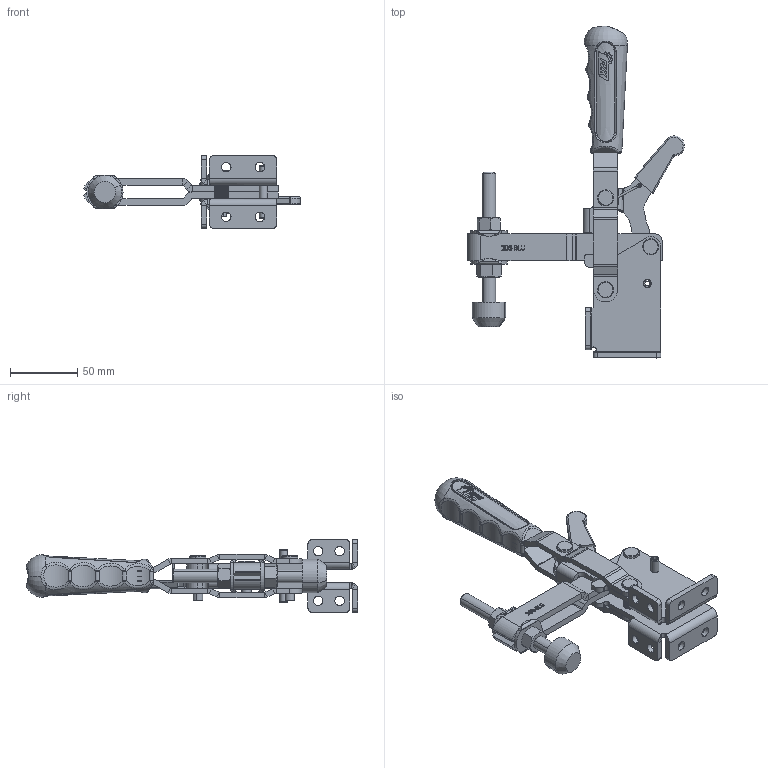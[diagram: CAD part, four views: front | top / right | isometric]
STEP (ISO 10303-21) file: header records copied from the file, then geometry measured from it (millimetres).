
FILE_DESCRIPTION (( 'STEP AP214' ), '1' );
FILE_NAME ('203_YLU-K.STEP', '2024-09-09T16:32:12', ( '' ), ( '' ), 'SwSTEP 2.0', 'SolidWorks 2023', '' );
FILE_SCHEMA (( 'AUTOMOTIVE_DESIGN' ));
Length unit declared in the file: millimetre
Products named in the file (20): M10 PABUÇ; TTMK_03_00; FZK_203_YL_02_00; FZK_203_B_07_00; FZK_203_YL_01_00; FZK_203_BU_01_00; FZK_203_B_03_00; M10x100 A.K.B; Ø6x40 YARIKLI PİM; FZK_203_BU_02_00; FZK_203_B_04_00; YAY 203_B-K; FZK_203_B_03A_00; DALDIRMA SAP; FZK_203_B_05_00; 203_YLU-K; M10 PUL DIN 125; FZK_203_B-K_01_00; M10 A.K. SOMUN ; FZK_203_B_06_00
Assembly tree (25 placements, depth 3):
  203_YLU-K
    FZK_203_BU_02_00
    FZK_203_B_03_00
      FZK_203_B_03A_00  x2
    TTMK_03_00
    FZK_203_B_05_00
    FZK_203_B_07_00  x2
    FZK_203_B_06_00  x2
    M10 PABUÇ
    FZK_203_BU_01_00
    M10 PUL DIN 125  x2
    FZK_203_YL_02_00
    FZK_203_YL_01_00
    FZK_203_B_04_00  x2
    M10x100 A.K.B
    M10 A.K. SOMUN   x2
    Ø6x40 YARIKLI PİM
    YAY 203_B-K
    FZK_203_B-K_01_00
    DALDIRMA SAP
Bounding box: 161.16 x 246.71 x 54.01 mm (x, y, z)
Volume: 185355.1 mm3; surface area: 101278.7 mm2
Topology: 24 solids, 24 shells, 1613 faces, 4253 edges, 2703 vertices
Faces by surface type: cylinder 890, plane 324, bspline 279, cone 86, sphere 20, torus 14
Entity records: 58138 total; most frequent: CARTESIAN_POINT 32228, ORIENTED_EDGE 6034, DIRECTION 4002, EDGE_CURVE 3017, VERTEX_POINT 1921, AXIS2_PLACEMENT_3D 1482, B_SPLINE_CURVE_WITH_KNOTS 1390, EDGE_LOOP 1250
